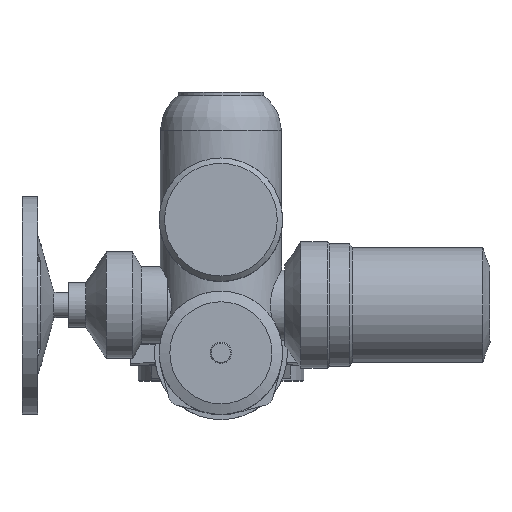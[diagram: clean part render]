
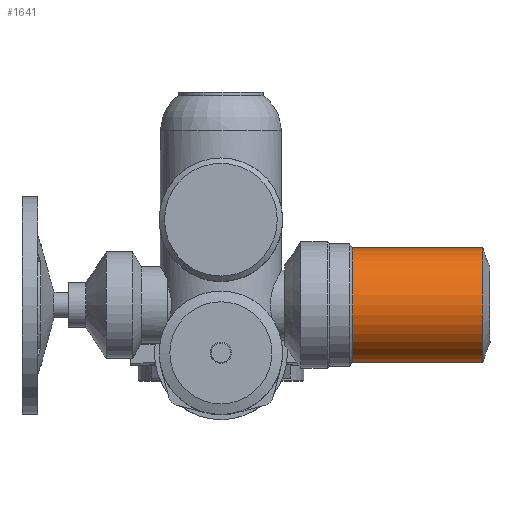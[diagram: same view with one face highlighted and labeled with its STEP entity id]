
A CAD part, top view. The second image highlights one B-rep face of the part: STEP entity #1641.
In plain terms, the highlighted cylindrical face has radius 54 mm (diameter 108 mm), a full revolution.
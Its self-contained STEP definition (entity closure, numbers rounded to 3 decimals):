
#1641=ADVANCED_FACE('',(#3547,#3549),#3551,.T.);
#3547=FACE_OUTER_BOUND('',#3548,.T.);
#3548=EDGE_LOOP('',(#4916));
#3549=FACE_OUTER_BOUND('',#3550,.T.);
#3550=EDGE_LOOP('',(#4917));
#3551=CYLINDRICAL_SURFACE('',#3552,54.);
#3552=AXIS2_PLACEMENT_3D('',#3553,#3554,#3555);
#3553=CARTESIAN_POINT('',(246.085,45.,461.));
#3554=DIRECTION('',(-1.,0.,0.));
#3555=DIRECTION('',(0.,0.,1.));
#4916=ORIENTED_EDGE('',*,*,#5693,.T.);
#4917=ORIENTED_EDGE('',*,*,#5593,.F.);
#5593=EDGE_CURVE('',#6448,#6448,#6449,.T.);
#5693=EDGE_CURVE('',#6606,#6606,#6607,.T.);
#6448=VERTEX_POINT('',#9375);
#6449=CIRCLE('',#9376,54.);
#6606=VERTEX_POINT('',#9759);
#6607=CIRCLE('',#9760,54.);
#9375=CARTESIAN_POINT('',(123.505,45.,515.));
#9376=AXIS2_PLACEMENT_3D('',#9377,#9378,#9379);
#9377=CARTESIAN_POINT('',(123.505,45.,461.));
#9378=DIRECTION('',(-1.,0.,0.));
#9379=DIRECTION('',(0.,0.,1.));
#9759=CARTESIAN_POINT('',(246.085,45.,515.));
#9760=AXIS2_PLACEMENT_3D('',#9761,#9762,#9763);
#9761=CARTESIAN_POINT('',(246.085,45.,461.));
#9762=DIRECTION('',(-1.,0.,0.));
#9763=DIRECTION('',(0.,0.,1.));
